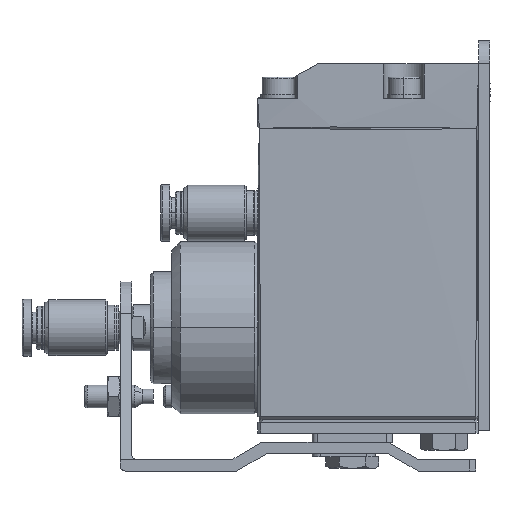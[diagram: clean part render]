
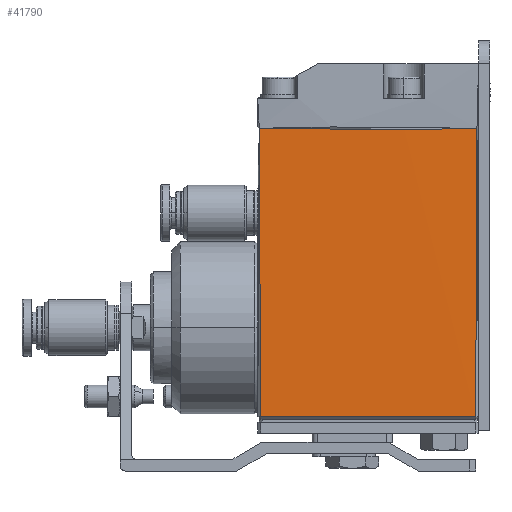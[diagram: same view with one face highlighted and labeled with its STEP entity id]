
A CAD part, left-side view. The second image highlights one B-rep face of the part: STEP entity #41790.
In plain terms, the highlighted planar face has unit normal (-1, 0, 0).
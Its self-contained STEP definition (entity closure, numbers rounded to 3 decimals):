
#1238 = CARTESIAN_POINT ( 'NONE',  ( 0.244, 38.222, 50.778 ) ) ;
#2991 = VECTOR ( 'NONE', #39708, 1000. ) ;
#3036 = DIRECTION ( 'NONE',  ( 0., 0., 1. ) ) ;
#6603 = PLANE ( 'NONE',  #9216 ) ;
#8099 = CARTESIAN_POINT ( 'NONE',  ( 0., 38., 25.5 ) ) ;
#9216 = AXIS2_PLACEMENT_3D ( 'NONE', #49590, #26118, #3036 ) ;
#9819 = ORIENTED_EDGE ( 'NONE', *, *, #42416, .F. ) ;
#9860 = CARTESIAN_POINT ( 'NONE',  ( 0., 19.25, 50.5 ) ) ;
#11596 = EDGE_CURVE ( 'NONE', #16009, #48324, #21427, .T. ) ;
#12621 = CARTESIAN_POINT ( 'NONE',  ( 0., 0.5, 25.5 ) ) ;
#12968 = CARTESIAN_POINT ( 'NONE',  ( 0., 0.5, 0.5 ) ) ;
#13882 = DIRECTION ( 'NONE',  ( 0., 1., 0. ) ) ;
#13898 = LINE ( 'NONE', #25150, #15074 ) ;
#15074 = VECTOR ( 'NONE', #21565, 1000. ) ;
#16009 = VERTEX_POINT ( 'NONE', #1238 ) ;
#19515 = VERTEX_POINT ( 'NONE', #12968 ) ;
#21427 = LINE ( 'NONE', #8099, #42130 ) ;
#21565 = DIRECTION ( 'NONE',  ( 0., 1., 0. ) ) ;
#22432 = EDGE_CURVE ( 'NONE', #19515, #22659, #33819, .T. ) ;
#22659 = VERTEX_POINT ( 'NONE', #23869 ) ;
#23480 = EDGE_CURVE ( 'NONE', #22659, #16009, #36084, .T. ) ;
#23869 = CARTESIAN_POINT ( 'NONE',  ( 0.172, 0.278, 50.778 ) ) ;
#25150 = CARTESIAN_POINT ( 'NONE',  ( 0., 19.25, 0.5 ) ) ;
#26016 = FACE_OUTER_BOUND ( 'NONE', #35234, .T. ) ;
#26118 = DIRECTION ( 'NONE',  ( -1., 0., 0. ) ) ;
#33819 = LINE ( 'NONE', #12621, #2991 ) ;
#35123 = DIRECTION ( 'NONE',  ( 0., 0., -1. ) ) ;
#35234 = EDGE_LOOP ( 'NONE', ( #43967, #44855, #35502, #9819 ) ) ;
#35502 = ORIENTED_EDGE ( 'NONE', *, *, #11596, .T. ) ;
#36084 = LINE ( 'NONE', #9860, #46503 ) ;
#39708 = DIRECTION ( 'NONE',  ( 0., 0., 1. ) ) ;
#40858 = CARTESIAN_POINT ( 'NONE',  ( 0., 38., 0.5 ) ) ;
#41790 = ADVANCED_FACE ( 'NONE', ( #26016 ), #6603, .T. ) ;
#42130 = VECTOR ( 'NONE', #35123, 1000. ) ;
#42416 = EDGE_CURVE ( 'NONE', #19515, #48324, #13898, .T. ) ;
#43967 = ORIENTED_EDGE ( 'NONE', *, *, #22432, .T. ) ;
#44855 = ORIENTED_EDGE ( 'NONE', *, *, #23480, .T. ) ;
#46503 = VECTOR ( 'NONE', #13882, 1000. ) ;
#48324 = VERTEX_POINT ( 'NONE', #40858 ) ;
#49590 = CARTESIAN_POINT ( 'NONE',  ( 0., -3.25, -4.5 ) ) ;
